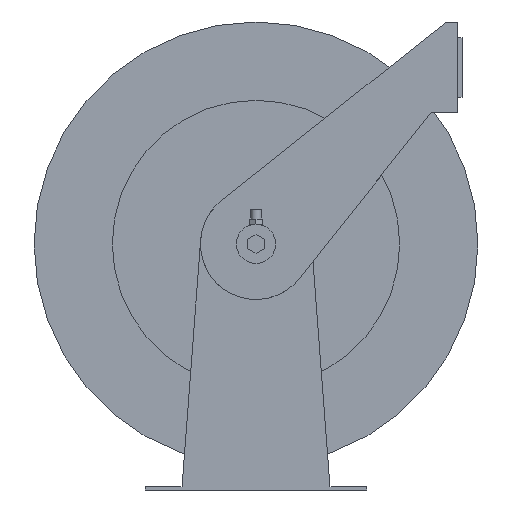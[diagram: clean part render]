
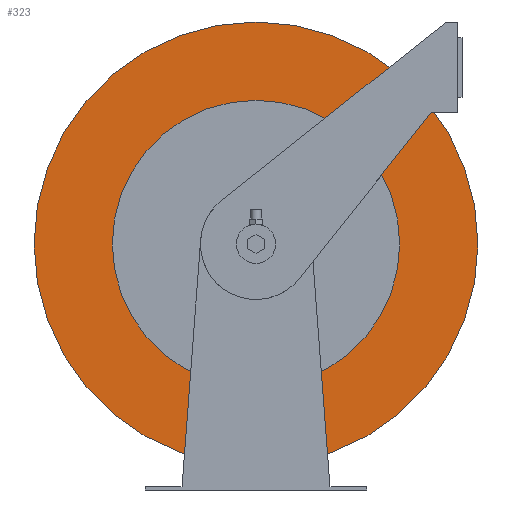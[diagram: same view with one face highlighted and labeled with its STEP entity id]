
A CAD part, front view. The second image highlights one B-rep face of the part: STEP entity #323.
In plain terms, the highlighted planar face has unit normal (0, -1, 0).
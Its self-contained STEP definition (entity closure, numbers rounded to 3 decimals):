
#323 = ADVANCED_FACE( '', ( #730, #731 ), #732, .T. );
#730 = FACE_OUTER_BOUND( '', #1205, .T. );
#731 = FACE_BOUND( '', #1206, .T. );
#732 = PLANE( '', #1207 );
#1205 = EDGE_LOOP( '', ( #2065 ) );
#1206 = EDGE_LOOP( '', ( #2066 ) );
#1207 = AXIS2_PLACEMENT_3D( '', #2067, #2068, #2069 );
#2065 = ORIENTED_EDGE( '', *, *, #2813, .T. );
#2066 = ORIENTED_EDGE( '', *, *, #2837, .F. );
#2067 = CARTESIAN_POINT( '', ( 0., 24.359, 642.722 ) );
#2068 = DIRECTION( '', ( 0., -1., 0. ) );
#2069 = DIRECTION( '', ( 1., 0., 0. ) );
#2813 = EDGE_CURVE( '', #3423, #3423, #3424, .T. );
#2837 = EDGE_CURVE( '', #3455, #3455, #3456, .T. );
#3423 = VERTEX_POINT( '', #4409 );
#3424 = CIRCLE( '', #4410, 304.8 );
#3455 = VERTEX_POINT( '', #4449 );
#3456 = CIRCLE( '', #4450, 197.282 );
#4409 = CARTESIAN_POINT( '', ( 304.8, 24.359, 337.922 ) );
#4410 = AXIS2_PLACEMENT_3D( '', #4936, #4937, #4938 );
#4449 = CARTESIAN_POINT( '', ( 197.282, 24.359, 337.922 ) );
#4450 = AXIS2_PLACEMENT_3D( '', #4959, #4960, #4961 );
#4936 = CARTESIAN_POINT( '', ( 0., 24.359, 337.922 ) );
#4937 = DIRECTION( '', ( 0., -1., 0. ) );
#4938 = DIRECTION( '', ( 1., 0., 0. ) );
#4959 = CARTESIAN_POINT( '', ( 0., 24.359, 337.922 ) );
#4960 = DIRECTION( '', ( 0., -1., 0. ) );
#4961 = DIRECTION( '', ( 1., 0., 0. ) );
